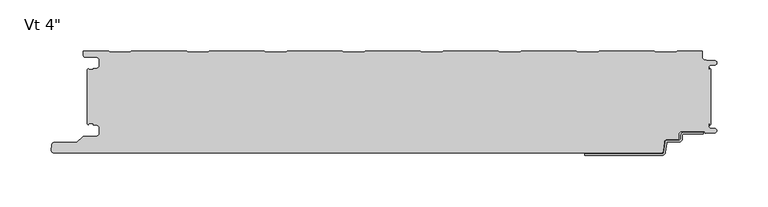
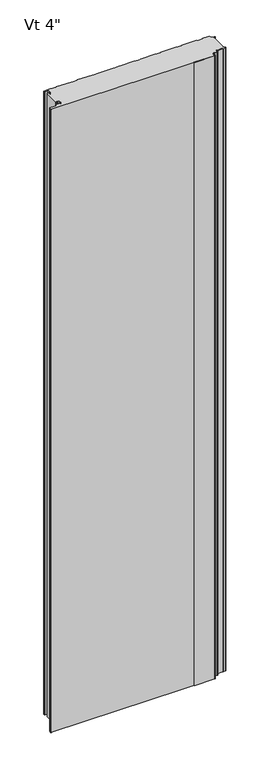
"""IFC4 building model written with IfcOpenShell, lengths in millimetres: plate geometry."""

from ifc_helpers import new_model, si_unit, frame, origin, place, context, project, spatial, polyline, circle_curve, source, transform, mapped, element, save
from ifc_brep_helpers import plane_surface, cylinder_surface, revolved_surface, advanced_brep


def plate_125cbf9a(model_context):
    return source(origin(), model_context, "Body", "AdvancedBrep", [
        advanced_brep(
        [(278.4543181, -80.5008679, 0.0), (297.1995181, -80.5008679, 0.0), (297.1995181, -82.0248679, 0.0), (278.4543181, -82.0248679, 0.0), (276.9303181, -83.5488679, 0.0), (276.9303181, -86.6476679, 0.0), (273.4759181, -90.1020679, 0.0), (262.2633607, -90.1020679, 0.0), (261.5042604, -90.7976552, 0.0), (260.3094328, -100.3416507, 0.0), (257.2730313, -103.124, 0.0), (181.7057181, -103.1360323, 0.0), (181.7057181, -101.6, 0.0), (257.2730313, -101.6, 0.0), (258.7912321, -100.2088254, 0.0), (259.9860597, -90.6648299, 0.0), (262.2633607, -88.5780679, 0.0), (273.4759181, -88.5780679, 0.0), (275.4063181, -86.6476679, 0.0), (275.4063181, -83.5488679, 0.0), (278.4543181, -80.5008679, 2400.0), (275.4063181, -83.5488679, 2400.0), (275.4063181, -86.6476679, 2400.0), (273.4759181, -88.5780679, 2400.0), (262.2633607, -88.5780679, 2400.0), (259.9860597, -90.6648299, 2400.0), (258.7912321, -100.2088254, 2400.0), (257.2730313, -101.6, 2400.0), (181.7057181, -101.6, 2400.0), (181.7057181, -103.1360323, 2400.0), (257.2730313, -103.1360323, 2400.0), (260.3094328, -100.3416507, 2400.0), (261.5042604, -90.7976552, 2400.0), (262.2633607, -90.1020679, 2400.0), (273.4759181, -90.1020679, 2400.0), (276.9303181, -86.6476679, 2400.0), (276.9303181, -83.5488679, 2400.0), (278.4543181, -82.0248679, 2400.0), (297.1995181, -82.0248679, 2400.0), (297.1995181, -80.5008679, 2400.0)],
        [
            (0, 1),
            (1, 2),
            (2, 3),
            (3, 4, circle_curve(frame((278.4543181, -83.5488679, 0.0), z_axis=(0.0, 0.0, 1.0), x_axis=(0.0, 1.0, 0.0)), 1.524)),
            (4, 5),
            (5, 6, circle_curve(frame((273.4759181, -86.6476679, 0.0), z_axis=(0.0, 0.0, -1.0), x_axis=(0.0, 1.0, 0.0)), 3.4544)),
            (6, 7),
            (7, 8, circle_curve(frame((262.2633607, -90.8640679, 0.0), z_axis=(0.0, 0.0, 1.0), x_axis=(0.0, 1.0, 0.0)), 0.762)),
            (8, 9),
            (9, 10, circle_curve(frame((257.2730313, -100.076, 0.0), z_axis=(0.0, 0.0, -1.0), x_axis=(0.0, 1.0, 0.0)), 3.048)),
            (10, 11),
            (11, 12),
            (12, 13),
            (13, 14, circle_curve(frame((257.2730313, -100.076, 0.0), z_axis=(0.0, 0.0, 1.0), x_axis=(0.0, 1.0, 0.0)), 1.524)),
            (14, 15),
            (15, 16, circle_curve(frame((262.2633607, -90.8640679, 0.0), z_axis=(0.0, 0.0, -1.0), x_axis=(0.0, 1.0, 0.0)), 2.286)),
            (16, 17),
            (17, 18, circle_curve(frame((273.4759181, -86.6476679, 0.0), z_axis=(0.0, 0.0, 1.0), x_axis=(0.0, 1.0, 0.0)), 1.9304)),
            (18, 19),
            (19, 0, circle_curve(frame((278.4543181, -83.5488679, 0.0), z_axis=(0.0, 0.0, -1.0), x_axis=(0.0, 1.0, 0.0)), 3.048)),
            (20, 21, circle_curve(frame((278.4543181, -83.5488679, 2400.0), z_axis=(0.0, 0.0, 1.0), x_axis=(0.0, 1.0, 0.0)), 3.048)),
            (21, 22),
            (22, 23, circle_curve(frame((273.4759181, -86.6476679, 2400.0), z_axis=(0.0, 0.0, -1.0), x_axis=(0.0, 1.0, 0.0)), 1.9304)),
            (23, 24),
            (24, 25, circle_curve(frame((262.2633607, -90.8640679, 2400.0), z_axis=(0.0, 0.0, 1.0), x_axis=(0.0, 1.0, 0.0)), 2.286)),
            (25, 26),
            (26, 27, circle_curve(frame((257.2730313, -100.076, 2400.0), z_axis=(0.0, 0.0, -1.0), x_axis=(0.0, 1.0, 0.0)), 1.524)),
            (27, 28),
            (28, 29),
            (29, 30),
            (30, 31, circle_curve(frame((257.2730313, -100.076, 2400.0), z_axis=(0.0, 0.0, 1.0), x_axis=(0.0, 1.0, 0.0)), 3.048)),
            (31, 32),
            (32, 33, circle_curve(frame((262.2633607, -90.8640679, 2400.0), z_axis=(0.0, 0.0, -1.0), x_axis=(0.0, 1.0, 0.0)), 0.762)),
            (33, 34),
            (34, 35, circle_curve(frame((273.4759181, -86.6476679, 2400.0), z_axis=(0.0, 0.0, 1.0), x_axis=(0.0, 1.0, 0.0)), 3.4544)),
            (35, 36),
            (36, 37, circle_curve(frame((278.4543181, -83.5488679, 2400.0), z_axis=(0.0, 0.0, -1.0), x_axis=(0.0, 1.0, 0.0)), 1.524)),
            (37, 38),
            (38, 39),
            (39, 20),
            (2, 38),
            (37, 3),
            (15, 25),
            (24, 16),
            (7, 33),
            (32, 8),
            (5, 35),
            (34, 6),
            (1, 39),
            (36, 4),
            (9, 31),
            (30, 10),
            (13, 27),
            (26, 14),
            (0, 20),
            (12, 28),
            (29, 11),
            (23, 17),
            (18, 22),
            (21, 19),
        ],
        [
            plane_surface(frame((297.1995181, -101.6, 0.0), z_axis=(0.0, 0.0, -1.0), x_axis=(-1.0, 0.0, 0.0))),
            plane_surface(frame((297.1995181, -101.6, 2400.0), z_axis=(0.0, 0.0, 1.0), x_axis=(-1.0, 0.0, 0.0))),
            plane_surface(frame((278.4543181, -82.0248679, 0.0), z_axis=(0.0, -1.0, 0.0), x_axis=(0.0, 0.0, 1.0))),
            cylinder_surface(frame((262.2633607, -90.8640679, 0.0), z_axis=(0.0, 0.0, -1.0), x_axis=(0.0, 1.0, 0.0)), 2.286),
            revolved_surface(polyline([(262.2633607, -90.1020679, 2400.0), (262.2633607, -90.1020679, 0.0)]), (262.2633607, -90.8640679, 0.0), (0.0, 0.0, 1.0)),
            cylinder_surface(frame((273.4759181, -86.6476679, 0.0), z_axis=(0.0, 0.0, -1.0), x_axis=(0.0, 1.0, 0.0)), 3.4544),
            plane_surface(frame((297.1995181, -82.0248679, 0.0), z_axis=(1.0, 0.0, 0.0), x_axis=(0.0, 0.0, 1.0))),
            revolved_surface(polyline([(278.4543181, -82.0248679, 2400.0), (278.4543181, -82.0248679, 0.0)]), (278.4543181, -83.5488679, 0.0), (0.0, 0.0, 1.0)),
            cylinder_surface(frame((257.2730313, -100.076, 0.0), z_axis=(0.0, 0.0, -1.0), x_axis=(0.0, 1.0, 0.0)), 3.048),
            revolved_surface(polyline([(257.2730313, -98.55199999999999, 2400.0), (257.2730313, -98.55199999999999, 0.0)]), (257.2730313, -100.076, 0.0), (0.0, 0.0, 1.0)),
            plane_surface(frame((297.1995181, -80.5008679, 0.0), z_axis=(0.0, 1.0, 0.0), x_axis=(0.0, 0.0, 1.0))),
            plane_surface(frame((259.9860597, -90.6648299, 0.0), z_axis=(-0.992254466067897, 0.12422187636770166, 0.0), x_axis=(0.0, 0.0, 1.0))),
            plane_surface(frame((257.2730313, -101.6, 0.0), z_axis=(0.0, 1.0, 0.0), x_axis=(0.0, 0.0, 1.0))),
            plane_surface(frame((260.3094328, -100.3416507, 0.0), z_axis=(0.9922544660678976, -0.12422187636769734, 0.0), x_axis=(0.0, 0.0, 1.0))),
            plane_surface(frame((276.9303181, -86.6476679, 0.0), z_axis=(1.0, 0.0, 0.0), x_axis=(0.0, 0.0, 1.0))),
            plane_surface(frame((181.7057181, -103.1360323, 0.0), z_axis=(0.0, -1.0, 0.0), x_axis=(0.0, 0.0, 1.0))),
            plane_surface(frame((181.7057181, -101.6, 0.0), z_axis=(-1.0, 0.0, 0.0), x_axis=(0.0, 0.0, 1.0))),
            plane_surface(frame((273.4759181, -88.5780679, 0.0), z_axis=(0.0, 1.0, 0.0), x_axis=(0.0, 0.0, 1.0))),
            plane_surface(frame((275.4063181, -83.5488679, 0.0), z_axis=(-1.0, 0.0, 0.0), x_axis=(0.0, 0.0, 1.0))),
            plane_surface(frame((262.2633607, -90.1020679, 0.0), z_axis=(0.0, -1.0, 0.0), x_axis=(0.0, 0.0, 1.0))),
            revolved_surface(polyline([(273.4759181, -84.7172679, 2400.0), (273.4759181, -84.7172679, 0.0)]), (273.4759181, -86.6476679, 0.0), (0.0, 0.0, 1.0)),
            cylinder_surface(frame((278.4543181, -83.5488679, 0.0), z_axis=(0.0, 0.0, -1.0), x_axis=(0.0, 1.0, 0.0)), 3.048),
        ],
        [
            (0, [[1, 2, 3, 4, 5, 6, 7, 8, 9, 10, 11, 12, 13, 14, 15, 16, 17, 18, 19, 20]]),
            (1, [[21, 22, 23, 24, 25, 26, 27, 28, 29, 30, 31, 32, 33, 34, 35, 36, 37, 38, 39, 40]]),
            (2, [[41, -38, 42, -3]]),
            (3, [[43, -25, 44, -16]]),
            (4, [[45, -33, 46, -8]]),
            (5, [[47, -35, 48, -6]]),
            (6, [[49, -39, -41, -2]]),
            (7, [[-42, -37, 50, -4]]),
            (8, [[51, -31, 52, -10]]),
            (9, [[53, -27, 54, -14]]),
            (10, [[55, -40, -49, -1]]),
            (11, [[-54, -26, -43, -15]]),
            (12, [[56, -28, -53, -13]]),
            (13, [[-46, -32, -51, -9]]),
            (14, [[-50, -36, -47, -5]]),
            (15, [[-52, -30, 57, -11]]),
            (16, [[-57, -29, -56, -12]]),
            (17, [[-44, -24, 58, -17]]),
            (18, [[59, -22, 60, -19]]),
            (19, [[-48, -34, -45, -7]]),
            (20, [[-58, -23, -59, -18]]),
            (21, [[-60, -21, -55, -20]]),
        ],
    ),
        advanced_brep(
        [(-303.7683001, -73.270875, 2400.0), (-302.5671761, -72.1014003, 2400.0), (-298.8087827, -72.1014003, 2400.0), (-298.8087827, -73.4998791, 2400.0), (-296.1096717, -73.4998791, 2400.0), (-292.7596764, -76.8498744, 2400.0), (-292.7596764, -81.2498656, 2400.0), (-296.1096717, -84.5998609, 2400.0), (-307.9205608, -84.5998609, 2400.0), (-309.1226385, -85.0977778, 2400.0), (-314.6247096, -90.5998489, 2400.0), (-336.7198392, -90.5998489, 2400.0), (-339.3765709, -92.8184509, 2400.0), (-339.8125699, -97.8002718, 2400.0), (-337.2521176, -100.5945967, 2400.0), (256.315622, -100.6, 2400.0), (258.2669057, -98.8149259, 2400.0), (259.021161, -90.3539491, 2400.0), (262.1653654, -87.5906462, 2400.0), (272.2583308, -87.5906462, 2400.0), (273.2097394, -86.6392375, 2400.0), (273.2097394, -83.4955822, 2400.0), (277.2091924, -79.4961292, 2400.0), (298.3895515, -79.4961292, 2400.0), (299.5334028, -81.476977, 2400.0), (308.506811, -81.1217167, 2400.0), (308.5037148, -76.9211391, 2400.0), (304.4977997, -76.6767242, 2400.0), (302.7686884, -74.8819116, 2400.0), (302.7686884, -72.097365, 2400.0), (303.7686884, -72.097365, 2400.0), (303.7686884, -73.684865, 2400.0), (304.8, -72.6535534, 2400.0), (304.8, -18.6184525, 2400.0), (303.7686884, -17.5871409, 2400.0), (303.7686884, -19.0015288, 2400.0), (302.7686884, -19.0015288, 2400.0), (302.7686884, -16.6743462, 2400.0), (304.4513685, -14.9256429, 2400.0), (308.5921924, -14.7059822, 2400.0), (308.5931719, -10.4046442, 2400.0), (300.1016499, -9.9974365, 2400.0), (296.2787013, -6.0026007, 2400.0), (296.2787013, -1.0, 2400.0), (271.7794011, -1.0, 2400.0), (270.3937682, -2.2002307, 2400.0), (251.0186019, -2.2002307, 2400.0), (249.6329689, -1.0, 2400.0), (195.5795535, -1.0, 2400.0), (194.1939206, -2.2002307, 2400.0), (174.8187543, -2.2002307, 2400.0), (173.4331213, -1.0, 2400.0), (119.3797059, -1.0, 2400.0), (117.994073, -2.2002307, 2400.0), (98.6189067, -2.2002307, 2400.0), (97.2332737, -1.0, 2400.0), (43.1798583, -1.0, 2400.0), (41.7942254, -2.2002307, 2400.0), (22.4190591, -2.2002307, 2400.0), (21.0334261, -1.0, 2400.0), (-33.0199893, -1.0, 2400.0), (-34.4056222, -2.2002307, 2400.0), (-53.7807885, -2.2002307, 2400.0), (-55.1664215, -1.0, 2400.0), (-109.2198369, -1.0, 2400.0), (-110.6054698, -2.2002307, 2400.0), (-129.9806361, -2.2002307, 2400.0), (-131.3662691, -1.0, 2400.0), (-185.4196845, -1.0, 2400.0), (-186.8053174, -2.2002307, 2400.0), (-206.1804837, -2.2002307, 2400.0), (-207.5661167, -1.0, 2400.0), (-261.6195321, -1.0, 2400.0), (-263.005165, -2.2002307, 2400.0), (-282.3803313, -2.2002307, 2400.0), (-283.765974, -0.9999916, 2400.0), (-308.2662506, -0.9999916, 2400.0), (-308.2662506, -5.2315389, 2400.0), (-306.4962564, -7.0015331, 2400.0), (-296.0762778, -7.0015331, 2400.0), (-292.776282, -10.301529, 2400.0), (-292.776282, -14.7015202, 2400.0), (-296.0762777, -18.0015159, 2400.0), (-298.7684875, -18.0015159, 2400.0), (-298.7684875, -19.0015105, 2400.0), (-302.7686911, -19.0015105, 2400.0), (-303.7686883, -18.0015192, 2400.0), (-304.8, -19.0328308, 2400.0), (-304.8, -72.2391751, 2400.0), (-303.7683001, -73.270875, 0.0), (-304.8, -72.2391751, 0.0), (-304.8, -19.0328308, 0.0), (-303.7686883, -18.0015192, 0.0), (-302.7686911, -19.0015105, 0.0), (-298.7684875, -19.0015105, 0.0), (-298.7684875, -18.0015159, 0.0), (-296.0762777, -18.0015159, 0.0), (-292.776282, -14.7015202, 0.0), (-292.776282, -10.301529, 0.0), (-296.0762778, -7.0015331, 0.0), (-306.4962564, -7.0015331, 0.0), (-308.2662506, -5.2315389, 0.0), (-308.2662506, -0.9999916, 0.0), (-283.765974, -0.9999916, 0.0), (-282.3803313, -2.2002307, 0.0), (-263.005165, -2.2002307, 0.0), (-261.6195321, -1.0, 0.0), (-207.5661167, -1.0, 0.0), (-206.1804837, -2.2002307, 0.0), (-186.8053174, -2.2002307, 0.0), (-185.4196845, -1.0, 0.0), (-131.3662691, -1.0, 0.0), (-129.9806361, -2.2002307, 0.0), (-110.6054698, -2.2002307, 0.0), (-109.2198369, -1.0, 0.0), (-55.1664215, -1.0, 0.0), (-53.7807885, -2.2002307, 0.0), (-34.4056222, -2.2002307, 0.0), (-33.0199893, -1.0, 0.0), (21.0334261, -1.0, 0.0), (22.4190591, -2.2002307, 0.0), (41.7942254, -2.2002307, 0.0), (43.1798583, -1.0, 0.0), (97.2332737, -1.0, 0.0), (98.6189067, -2.2002307, 0.0), (117.994073, -2.2002307, 0.0), (119.3797059, -1.0, 0.0), (173.4331213, -1.0, 0.0), (174.8187543, -2.2002307, 0.0), (194.1939206, -2.2002307, 0.0), (195.5795535, -1.0, 0.0), (249.6329689, -1.0, 0.0), (251.0186019, -2.2002307, 0.0), (270.3937682, -2.2002307, 0.0), (271.7794011, -1.0, 0.0), (296.2787013, -1.0, 0.0), (296.2787013, -6.0026007, 0.0), (300.1016499, -9.9974365, 0.0), (308.5931719, -10.4046442, 0.0), (308.5921924, -14.7059822, 0.0), (304.4513685, -14.9256429, 0.0), (302.7686884, -16.6743462, 0.0), (302.7686884, -19.0015288, 0.0), (303.7686884, -19.0015288, 0.0), (303.7686884, -17.5871409, 0.0), (304.8, -18.6184525, 0.0), (304.8, -72.6535534, 0.0), (303.7686884, -73.684865, 0.0), (303.7686884, -72.097365, 0.0), (302.7686884, -72.097365, 0.0), (302.7686884, -74.8819116, 0.0), (304.4977997, -76.6767242, 0.0), (308.5037148, -76.9211391, 0.0), (308.506811, -81.1217167, 0.0), (299.5334028, -81.476977, 0.0), (298.3895515, -79.4961292, 0.0), (277.2091924, -79.4961292, 0.0), (273.2097394, -83.4955822, 0.0), (273.2097394, -86.6392375, 0.0), (272.2583308, -87.5906462, 0.0), (262.1653654, -87.5906462, 0.0), (259.021161, -90.3539491, 0.0), (258.2669057, -98.8149259, 0.0), (256.315622, -100.6, 0.0), (-337.2521176, -100.6, 0.0), (-339.8125699, -97.8002718, 0.0), (-339.3765709, -92.8184509, 0.0), (-336.7198392, -90.5998489, 0.0), (-314.6247096, -90.5998489, 0.0), (-309.1226385, -85.0977778, 0.0), (-307.9205608, -84.5998609, 0.0), (-296.1096717, -84.5998609, 0.0), (-292.7596764, -81.2498656, 0.0), (-292.7596764, -76.8498744, 0.0), (-296.1096717, -73.4998791, 0.0), (-298.8087827, -73.4998791, 0.0), (-298.8087827, -72.1014003, 0.0), (-302.5671761, -72.1014003, 0.0)],
        [
            (0, 1, circle_curve(frame((-302.5686908, -73.3013969, 2400.0), z_axis=(0.0, 0.0, -1.0), x_axis=(-1.0, 0.0, 0.0)), 1.1999976)),
            (1, 2),
            (2, 3),
            (3, 4),
            (4, 5, circle_curve(frame((-296.1096717, -76.8498744, 2400.0), z_axis=(0.0, 0.0, -1.0), x_axis=(-1.0, 0.0, 0.0)), 3.3499953)),
            (5, 6),
            (6, 7, circle_curve(frame((-296.1096717, -81.2498656, 2400.0), z_axis=(0.0, 0.0, -1.0), x_axis=(-1.0, 0.0, 0.0)), 3.3499953)),
            (7, 8),
            (8, 9, circle_curve(frame((-307.9205608, -86.2998555, 2400.0), z_axis=(0.0, 0.0, 1.0), x_axis=(-1.0, 0.0, 0.0)), 1.6999946)),
            (9, 10),
            (10, 11),
            (11, 12, circle_curve(frame((-336.7198392, -93.2998415, 2400.0), z_axis=(0.0, 0.0, 1.0), x_axis=(-1.0, 0.0, 0.0)), 2.6999926)),
            (12, 13),
            (13, 14, circle_curve(frame((-337.2521176, -98.0243575, 2400.0), z_axis=(0.0, 0.0, 1.0), x_axis=(-1.0, 0.0, 0.0)), 2.5702393)),
            (14, 15),
            (15, 16, circle_curve(frame((256.315622, -98.6409784, 2400.0), z_axis=(0.0, 0.0, 1.0), x_axis=(-1.0, 0.0, 0.0)), 1.9590216)),
            (16, 17),
            (17, 18, circle_curve(frame((262.0396267, -90.6180321, 2400.0), z_axis=(0.0, 0.0, -1.0), x_axis=(-1.0, 0.0, 0.0)), 3.0299959)),
            (18, 19),
            (19, 20, circle_curve(frame((272.2583308, -86.6392375, 2400.0), z_axis=(0.0, 0.0, 1.0), x_axis=(-1.0, 0.0, 0.0)), 0.9514087)),
            (20, 21),
            (21, 22, circle_curve(frame((277.2091924, -83.4955822, 2400.0), z_axis=(0.0, 0.0, -1.0), x_axis=(-1.0, 0.0, 0.0)), 3.9994529)),
            (22, 23),
            (23, 24),
            (24, 25),
            (25, 26, circle_curve(frame((308.4236622, -79.021488, 2400.0), z_axis=(0.0, 0.0, 1.0), x_axis=(-1.0, 0.0, 0.0)), 2.1018739)),
            (26, 27),
            (27, 28, circle_curve(frame((304.6099653, -74.8383506, 2400.0), z_axis=(0.0, 0.0, -1.0), x_axis=(-1.0, 0.0, 0.0)), 1.8417922)),
            (28, 29),
            (29, 30),
            (30, 31),
            (31, 32),
            (32, 33),
            (33, 34),
            (34, 35),
            (35, 36),
            (36, 37),
            (37, 38, circle_curve(frame((304.5186869, -16.6743462, 2400.0), z_axis=(0.0, 0.0, -1.0), x_axis=(1.0, 0.0, 0.0)), 1.7499985)),
            (38, 39),
            (39, 40, circle_curve(frame((308.4781032, -12.5552871, 2400.0), z_axis=(0.0, 0.0, 1.0), x_axis=(1.0, 0.0, 0.0)), 2.153719)),
            (40, 41),
            (41, 42, circle_curve(frame((300.2939817, -5.9867338, 2400.0), z_axis=(0.0, 0.0, -1.0), x_axis=(1.0, 0.0, 0.0)), 4.0153117)),
            (42, 43),
            (43, 44),
            (44, 45),
            (45, 46),
            (46, 47),
            (47, 48),
            (48, 49),
            (49, 50),
            (50, 51),
            (51, 52),
            (52, 53),
            (53, 54),
            (54, 55),
            (55, 56),
            (56, 57),
            (57, 58),
            (58, 59),
            (59, 60),
            (60, 61),
            (61, 62),
            (62, 63),
            (63, 64),
            (64, 65),
            (65, 66),
            (66, 67),
            (67, 68),
            (68, 69),
            (69, 70),
            (70, 71),
            (71, 72),
            (72, 73),
            (73, 74),
            (74, 75),
            (75, 76),
            (76, 77),
            (77, 78, circle_curve(frame((-306.4962564, -5.2315389, 2400.0), z_axis=(0.0, 0.0, 1.0), x_axis=(1.0, 0.0, 0.0)), 1.7699942)),
            (78, 79),
            (79, 80, circle_curve(frame((-296.0762778, -10.301529, 2400.0), z_axis=(0.0, 0.0, -1.0), x_axis=(1.0, 0.0, 0.0)), 3.2999959)),
            (80, 81),
            (81, 82, circle_curve(frame((-296.0762777, -14.7015202, 2400.0), z_axis=(0.0, 0.0, -1.0), x_axis=(1.0, 0.0, 0.0)), 3.2999957)),
            (82, 83),
            (83, 84),
            (84, 85),
            (85, 86, circle_curve(frame((-302.7686911, -18.0015133, 2400.0), z_axis=(0.0, 0.0, -1.0), x_axis=(1.0, 0.0, 0.0)), 0.9999972)),
            (86, 87),
            (87, 88),
            (88, 0),
            (89, 90),
            (90, 91),
            (91, 92),
            (92, 93, circle_curve(frame((-302.7686911, -18.0015133, 0.0), z_axis=(0.0, 0.0, 1.0), x_axis=(1.0, 0.0, 0.0)), 0.9999972)),
            (93, 94),
            (94, 95),
            (95, 96),
            (96, 97, circle_curve(frame((-296.0762777, -14.7015202, 0.0), z_axis=(0.0, 0.0, 1.0), x_axis=(1.0, 0.0, 0.0)), 3.2999957)),
            (97, 98),
            (98, 99, circle_curve(frame((-296.0762778, -10.301529, 0.0), z_axis=(0.0, 0.0, 1.0), x_axis=(1.0, 0.0, 0.0)), 3.2999959)),
            (99, 100),
            (100, 101, circle_curve(frame((-306.4962564, -5.2315389, 0.0), z_axis=(0.0, 0.0, -1.0), x_axis=(1.0, 0.0, 0.0)), 1.7699942)),
            (101, 102),
            (102, 103),
            (103, 104),
            (104, 105),
            (105, 106),
            (106, 107),
            (107, 108),
            (108, 109),
            (109, 110),
            (110, 111),
            (111, 112),
            (112, 113),
            (113, 114),
            (114, 115),
            (115, 116),
            (116, 117),
            (117, 118),
            (118, 119),
            (119, 120),
            (120, 121),
            (121, 122),
            (122, 123),
            (123, 124),
            (124, 125),
            (125, 126),
            (126, 127),
            (127, 128),
            (128, 129),
            (129, 130),
            (130, 131),
            (131, 132),
            (132, 133),
            (133, 134),
            (134, 135),
            (135, 136),
            (136, 137, circle_curve(frame((300.2939817, -5.9867338, 0.0), z_axis=(0.0, 0.0, 1.0), x_axis=(1.0, 0.0, 0.0)), 4.0153117)),
            (137, 138),
            (138, 139, circle_curve(frame((308.4781032, -12.5552871, 0.0), z_axis=(0.0, 0.0, -1.0), x_axis=(1.0, 0.0, 0.0)), 2.153719)),
            (139, 140),
            (140, 141, circle_curve(frame((304.5186869, -16.6743462, 0.0), z_axis=(0.0, 0.0, 1.0), x_axis=(1.0, 0.0, 0.0)), 1.7499985)),
            (141, 142),
            (142, 143),
            (143, 144),
            (144, 145),
            (145, 146),
            (146, 147),
            (147, 148),
            (148, 149),
            (149, 150),
            (150, 151, circle_curve(frame((304.6099653, -74.8383506, 0.0), z_axis=(0.0, 0.0, 1.0), x_axis=(-1.0, 0.0, 0.0)), 1.8417922)),
            (151, 152),
            (152, 153, circle_curve(frame((308.4236622, -79.021488, 0.0), z_axis=(0.0, 0.0, -1.0), x_axis=(-1.0, 0.0, 0.0)), 2.1018739)),
            (153, 154),
            (154, 155),
            (155, 156),
            (156, 157, circle_curve(frame((277.2091924, -83.4955822, 0.0), z_axis=(0.0, 0.0, 1.0), x_axis=(-1.0, 0.0, 0.0)), 3.9994529)),
            (157, 158),
            (158, 159, circle_curve(frame((272.2583308, -86.6392375, 0.0), z_axis=(0.0, 0.0, -1.0), x_axis=(-1.0, 0.0, 0.0)), 0.9514087)),
            (159, 160),
            (160, 161, circle_curve(frame((262.0396267, -90.6180321, 0.0), z_axis=(0.0, 0.0, 1.0), x_axis=(-1.0, 0.0, 0.0)), 3.0299959)),
            (161, 162),
            (162, 163, circle_curve(frame((256.315622, -98.6409784, 0.0), z_axis=(0.0, 0.0, -1.0), x_axis=(-1.0, 0.0, 0.0)), 1.9590216)),
            (163, 164),
            (164, 165, circle_curve(frame((-337.2521176, -98.0243575, 0.0), z_axis=(0.0, 0.0, -1.0), x_axis=(-1.0, 0.0, 0.0)), 2.5702393)),
            (165, 166),
            (166, 167, circle_curve(frame((-336.7198392, -93.2998415, 0.0), z_axis=(0.0, 0.0, -1.0), x_axis=(-1.0, 0.0, 0.0)), 2.6999926)),
            (167, 168),
            (168, 169),
            (169, 170, circle_curve(frame((-307.9205608, -86.2998555, 0.0), z_axis=(0.0, 0.0, -1.0), x_axis=(-1.0, 0.0, 0.0)), 1.6999946)),
            (170, 171),
            (171, 172, circle_curve(frame((-296.1096717, -81.2498656, 0.0), z_axis=(0.0, 0.0, 1.0), x_axis=(-1.0, 0.0, 0.0)), 3.3499953)),
            (172, 173),
            (173, 174, circle_curve(frame((-296.1096717, -76.8498744, 0.0), z_axis=(0.0, 0.0, 1.0), x_axis=(-1.0, 0.0, 0.0)), 3.3499953)),
            (174, 175),
            (175, 176),
            (176, 177),
            (177, 89, circle_curve(frame((-302.5686908, -73.3013969, 0.0), z_axis=(0.0, 0.0, 1.0), x_axis=(-1.0, 0.0, 0.0)), 1.1999976)),
            (88, 90),
            (89, 0),
            (87, 91),
            (32, 146),
            (145, 33),
            (31, 147),
            (30, 148),
            (29, 149),
            (28, 150),
            (27, 151),
            (26, 152),
            (25, 153),
            (24, 154),
            (23, 155),
            (22, 156),
            (21, 157),
            (20, 158),
            (19, 159),
            (18, 160),
            (17, 161),
            (16, 162),
            (15, 163),
            (14, 164),
            (13, 165),
            (12, 166),
            (11, 167),
            (10, 168),
            (9, 169),
            (8, 170),
            (7, 171),
            (6, 172),
            (5, 173),
            (4, 174),
            (3, 175),
            (2, 176),
            (1, 177),
            (86, 92),
            (85, 93),
            (84, 94),
            (83, 95),
            (82, 96),
            (81, 97),
            (80, 98),
            (79, 99),
            (78, 100),
            (77, 101),
            (76, 102),
            (41, 137),
            (136, 42),
            (40, 138),
            (39, 139),
            (38, 140),
            (37, 141),
            (36, 142),
            (35, 143),
            (34, 144),
            (74, 104),
            (103, 75),
            (73, 105),
            (72, 106),
            (71, 107),
            (70, 108),
            (69, 109),
            (68, 110),
            (67, 111),
            (66, 112),
            (65, 113),
            (64, 114),
            (63, 115),
            (62, 116),
            (61, 117),
            (60, 118),
            (59, 119),
            (58, 120),
            (57, 121),
            (56, 122),
            (55, 123),
            (54, 124),
            (53, 125),
            (52, 126),
            (51, 127),
            (50, 128),
            (49, 129),
            (48, 130),
            (47, 131),
            (46, 132),
            (45, 133),
            (44, 134),
            (43, 135),
        ],
        [
            plane_surface(frame((0.0, -100.6, 2400.0), z_axis=(0.0, 0.0, 1.0), x_axis=(0.0, -1.0, 0.0))),
            plane_surface(frame((0.0, -100.6, 0.0), z_axis=(0.0, 0.0, -1.0), x_axis=(0.0, -1.0, 0.0))),
            plane_surface(frame((-303.7683001, -73.270875, 2400.0), z_axis=(-0.7071067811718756, -0.7071067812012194, 0.0), x_axis=(0.0, 0.0, -1.0))),
            plane_surface(frame((-304.8, -72.2391751, 2400.0), z_axis=(-1.0, 0.0, 0.0), x_axis=(0.0, 0.0, -1.0))),
            plane_surface(frame((304.8, -71.2391751, 2400.0), z_axis=(1.0, 0.0, 0.0), x_axis=(0.0, 0.0, -1.0))),
            plane_surface(frame((304.8, -72.6535534, 2400.0), z_axis=(0.7071067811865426, -0.7071067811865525, 0.0), x_axis=(0.0, 0.0, -1.0))),
            plane_surface(frame((303.7686884, -73.684865, 2400.0), z_axis=(-1.0, 0.0, 0.0), x_axis=(0.0, 0.0, -1.0))),
            plane_surface(frame((303.7686884, -72.097365, 2400.0), z_axis=(0.0, -1.0, 0.0), x_axis=(0.0, 0.0, -1.0))),
            plane_surface(frame((302.7686884, -72.097365, 2400.0), z_axis=(1.0, 0.0, 0.0), x_axis=(0.0, 0.0, -1.0))),
            revolved_surface(polyline([(302.7681731, -74.8383506, 0.0), (302.7681731, -74.8383506, 2400.0)]), (304.6099653, -74.8383506, 2400.0), (0.0, 0.0, -1.0)),
            plane_surface(frame((304.4977997, -76.6767242, 2400.0), z_axis=(0.06090025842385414, 0.9981438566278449, 0.0), x_axis=(0.0, 0.0, -1.0))),
            cylinder_surface(frame((308.4236622, -79.021488, 2400.0), z_axis=(0.0, 0.0, 1.0), x_axis=(-1.0, 0.0, 0.0)), 2.1018739),
            plane_surface(frame((308.506811, -81.1217167, 2400.0), z_axis=(0.03955935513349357, -0.9992172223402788, 0.0), x_axis=(0.0, 0.0, -1.0))),
            plane_surface(frame((299.5334028, -81.476977, 2400.0), z_axis=(-0.8659859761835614, -0.5000682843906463, 0.0), x_axis=(0.0, 0.0, -1.0))),
            plane_surface(frame((298.3895515, -79.4961292, 2400.0), z_axis=(0.0, -1.0, 0.0), x_axis=(0.0, 0.0, -1.0))),
            revolved_surface(polyline([(273.2097395, -83.4955822, 0.0), (273.2097395, -83.4955822, 2400.0)]), (277.2091924, -83.4955822, 2400.0), (0.0, 0.0, -1.0)),
            plane_surface(frame((273.2097394, -83.4955822, 2400.0), z_axis=(1.0, 0.0, 0.0), x_axis=(0.0, 0.0, -1.0))),
            cylinder_surface(frame((272.2583308, -86.6392375, 2400.0), z_axis=(0.0, 0.0, 1.0), x_axis=(-1.0, 0.0, 0.0)), 0.9514087),
            plane_surface(frame((272.2583308, -87.5906462, 2400.0), z_axis=(0.0, -1.0, 0.0), x_axis=(0.0, 0.0, -1.0))),
            revolved_surface(polyline([(259.00963079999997, -90.6180321, 0.0), (259.00963079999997, -90.6180321, 2400.0)]), (262.0396267, -90.6180321, 2400.0), (0.0, 0.0, -1.0)),
            plane_surface(frame((259.021161, -90.3539491, 2400.0), z_axis=(0.9960500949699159, -0.08879306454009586, 0.0), x_axis=(0.0, 0.0, -1.0))),
            cylinder_surface(frame((256.315622, -98.6409784, 2400.0), z_axis=(0.0, 0.0, 1.0), x_axis=(-1.0, 0.0, 0.0)), 1.9590216),
            plane_surface(frame((256.315622, -100.6, 2400.0), z_axis=(0.0, -1.0, 0.0), x_axis=(0.0, 0.0, -1.0))),
            cylinder_surface(frame((-337.2521176, -98.0243575, 2400.0), z_axis=(0.0, 0.0, 1.0), x_axis=(-1.0, 0.0, 0.0)), 2.5702393),
            plane_surface(frame((-339.8125699, -97.8002718, 2400.0), z_axis=(-0.9961921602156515, 0.08718474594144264, 0.0), x_axis=(0.0, 0.0, -1.0))),
            cylinder_surface(frame((-336.7198392, -93.2998415, 2400.0), z_axis=(0.0, 0.0, 1.0), x_axis=(-1.0, 0.0, 0.0)), 2.6999926),
            plane_surface(frame((-336.7198392, -90.5998489, 2400.0), z_axis=(0.0, 1.0, 0.0), x_axis=(0.0, 0.0, -1.0))),
            plane_surface(frame((-314.6247096, -90.5998489, 2400.0), z_axis=(-0.7071067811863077, 0.7071067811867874, 0.0), x_axis=(0.0, 0.0, -1.0))),
            cylinder_surface(frame((-307.9205608, -86.2998555, 2400.0), z_axis=(0.0, 0.0, 1.0), x_axis=(-1.0, 0.0, 0.0)), 1.6999946),
            plane_surface(frame((-307.9205608, -84.5998609, 2400.0), z_axis=(0.0, 1.0, 0.0), x_axis=(0.0, 0.0, -1.0))),
            revolved_surface(polyline([(-299.45966699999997, -81.2498656, 0.0), (-299.45966699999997, -81.2498656, 2400.0)]), (-296.1096717, -81.2498656, 2400.0), (0.0, 0.0, -1.0)),
            plane_surface(frame((-292.7596764, -81.2498656, 2400.0), z_axis=(-1.0, 0.0, 0.0), x_axis=(0.0, 0.0, -1.0))),
            revolved_surface(polyline([(-299.45966699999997, -76.8498744, 0.0), (-299.45966699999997, -76.8498744, 2400.0)]), (-296.1096717, -76.8498744, 2400.0), (0.0, 0.0, -1.0)),
            plane_surface(frame((-296.1096717, -73.4998791, 2400.0), z_axis=(0.0, -1.0, 0.0), x_axis=(0.0, 0.0, -1.0))),
            plane_surface(frame((-298.8087827, -73.4998791, 2400.0), z_axis=(-1.0, 0.0, 0.0), x_axis=(0.0, 0.0, -1.0))),
            plane_surface(frame((-298.8087827, -72.1014003, 2400.0), z_axis=(0.0, -1.0, 0.0), x_axis=(0.0, 0.0, -1.0))),
            revolved_surface(polyline([(-303.76868840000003, -73.3013969, 0.0), (-303.76868840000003, -73.3013969, 2400.0)]), (-302.5686908, -73.3013969, 2400.0), (0.0, 0.0, -1.0)),
            plane_surface(frame((-304.8, -19.0328308, 2400.0), z_axis=(-0.7071067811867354, 0.7071067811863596, 0.0), x_axis=(0.0, 0.0, -1.0))),
            revolved_surface(polyline([(-301.7686939, -18.0015133, 0.0), (-301.7686939, -18.0015133, 2400.0)]), (-302.7686911, -18.0015133, 2400.0), (0.0, 0.0, -1.0)),
            plane_surface(frame((-302.7686911, -19.0015105, 2400.0), z_axis=(0.0, 1.0, 0.0), x_axis=(0.0, 0.0, -1.0))),
            plane_surface(frame((-298.7684875, -19.0015105, 2400.0), z_axis=(-1.0, 0.0, 0.0), x_axis=(0.0, 0.0, -1.0))),
            plane_surface(frame((-298.7684875, -18.0015159, 2400.0), z_axis=(0.0, 1.0, 0.0), x_axis=(0.0, 0.0, -1.0))),
            revolved_surface(polyline([(-292.776282, -14.7015202, 0.0), (-292.776282, -14.7015202, 2400.0)]), (-296.0762777, -14.7015202, 2400.0), (0.0, 0.0, -1.0)),
            plane_surface(frame((-292.776282, -14.7015202, 2400.0), z_axis=(-1.0, 0.0, 0.0), x_axis=(0.0, 0.0, -1.0))),
            revolved_surface(polyline([(-292.7762819, -10.301529, 0.0), (-292.7762819, -10.301529, 2400.0)]), (-296.0762778, -10.301529, 2400.0), (0.0, 0.0, -1.0)),
            plane_surface(frame((-296.0762778, -7.0015331, 2400.0), z_axis=(0.0, -1.0, 0.0), x_axis=(0.0, 0.0, -1.0))),
            cylinder_surface(frame((-306.4962564, -5.2315389, 2400.0), z_axis=(0.0, 0.0, 1.0), x_axis=(1.0, 0.0, 0.0)), 1.7699942),
            plane_surface(frame((-308.2662506, -5.2315389, 2400.0), z_axis=(-1.0, 0.0, 0.0), x_axis=(0.0, 0.0, -1.0))),
            revolved_surface(polyline([(304.3092934, -5.9867338, 0.0), (304.3092934, -5.9867338, 2400.0)]), (300.2939817, -5.9867338, 2400.0), (0.0, 0.0, -1.0)),
            plane_surface(frame((300.1016499, -9.9974365, 2400.0), z_axis=(0.047899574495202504, 0.9988521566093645, 0.0), x_axis=(0.0, 0.0, -1.0))),
            cylinder_surface(frame((308.4781032, -12.5552871, 2400.0), z_axis=(0.0, 0.0, 1.0), x_axis=(1.0, 0.0, 0.0)), 2.153719),
            plane_surface(frame((308.5921924, -14.7059822, 2400.0), z_axis=(0.05297310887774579, -0.9985959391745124, 0.0), x_axis=(0.0, 0.0, -1.0))),
            revolved_surface(polyline([(306.2686854, -16.6743462, 0.0), (306.2686854, -16.6743462, 2400.0)]), (304.5186869, -16.6743462, 2400.0), (0.0, 0.0, -1.0)),
            plane_surface(frame((302.7686884, -16.6743462, 2400.0), z_axis=(1.0, 0.0, 0.0), x_axis=(0.0, 0.0, -1.0))),
            plane_surface(frame((302.7686884, -19.0015288, 2400.0), z_axis=(0.0, 1.0, 0.0), x_axis=(0.0, 0.0, -1.0))),
            plane_surface(frame((303.7686884, -19.0015288, 2400.0), z_axis=(-1.0, 0.0, 0.0), x_axis=(0.0, 0.0, -1.0))),
            plane_surface(frame((303.7686884, -17.5871409, 2400.0), z_axis=(0.7071067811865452, 0.7071067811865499, 0.0), x_axis=(0.0, 0.0, -1.0))),
            plane_surface(frame((-283.765974, -0.9999916, 2400.0), z_axis=(0.6547276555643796, 0.7558648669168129, 0.0), x_axis=(0.0, 0.0, -1.0))),
            plane_surface(frame((-308.2662506, -0.9999916, 2400.0), z_axis=(0.0, 1.0, 0.0), x_axis=(0.0, 0.0, -1.0))),
            plane_surface(frame((-282.3803313, -2.2002307, 2400.0), z_axis=(0.0, 1.0, 0.0), x_axis=(0.0, 0.0, -1.0))),
            plane_surface(frame((-263.005165, -2.2002307, 2400.0), z_axis=(-0.6547276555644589, 0.7558648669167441, 0.0), x_axis=(0.0, 0.0, -1.0))),
            plane_surface(frame((-261.6195321, -1.0, 2400.0), z_axis=(0.0, 1.0, 0.0), x_axis=(0.0, 0.0, -1.0))),
            plane_surface(frame((-207.5661167, -1.0, 2400.0), z_axis=(0.6547276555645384, 0.7558648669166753, 0.0), x_axis=(0.0, 0.0, -1.0))),
            plane_surface(frame((-206.1804837, -2.2002307, 2400.0), z_axis=(0.0, 1.0, 0.0), x_axis=(0.0, 0.0, -1.0))),
            plane_surface(frame((-186.8053174, -2.2002307, 2400.0), z_axis=(-0.6547276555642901, 0.7558648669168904, 0.0), x_axis=(0.0, 0.0, -1.0))),
            plane_surface(frame((-185.4196845, -1.0, 2400.0), z_axis=(0.0, 1.0, 0.0), x_axis=(0.0, 0.0, -1.0))),
            plane_surface(frame((-131.3662691, -1.0, 2400.0), z_axis=(0.6547276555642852, 0.7558648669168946, 0.0), x_axis=(0.0, 0.0, -1.0))),
            plane_surface(frame((-129.9806361, -2.2002307, 2400.0), z_axis=(0.0, 1.0, 0.0), x_axis=(0.0, 0.0, -1.0))),
            plane_surface(frame((-110.6054698, -2.2002307, 2400.0), z_axis=(-0.6547276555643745, 0.7558648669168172, 0.0), x_axis=(0.0, 0.0, -1.0))),
            plane_surface(frame((-109.2198369, -1.0, 2400.0), z_axis=(0.0, 1.0, 0.0), x_axis=(0.0, 0.0, -1.0))),
            plane_surface(frame((-55.1664215, -1.0, 2400.0), z_axis=(0.6547276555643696, 0.7558648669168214, 0.0), x_axis=(0.0, 0.0, -1.0))),
            plane_surface(frame((-53.7807885, -2.2002307, 2400.0), z_axis=(0.0, 1.0, 0.0), x_axis=(0.0, 0.0, -1.0))),
            plane_surface(frame((-34.4056222, -2.2002307, 2400.0), z_axis=(-0.6547276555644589, 0.7558648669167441, 0.0), x_axis=(0.0, 0.0, -1.0))),
            plane_surface(frame((-33.0199893, -1.0, 2400.0), z_axis=(0.0, 1.0, 0.0), x_axis=(0.0, 0.0, -1.0))),
            plane_surface(frame((21.0334261, -1.0, 2400.0), z_axis=(0.654727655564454, 0.7558648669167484, 0.0), x_axis=(0.0, 0.0, -1.0))),
            plane_surface(frame((22.4190591, -2.2002307, 2400.0), z_axis=(0.0, 1.0, 0.0), x_axis=(0.0, 0.0, -1.0))),
            plane_surface(frame((41.7942254, -2.2002307, 2400.0), z_axis=(-0.6547276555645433, 0.7558648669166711, 0.0), x_axis=(0.0, 0.0, -1.0))),
            plane_surface(frame((43.1798583, -1.0, 2400.0), z_axis=(0.0, 1.0, 0.0), x_axis=(0.0, 0.0, -1.0))),
            plane_surface(frame((97.2332737, -1.0, 2400.0), z_axis=(0.6547276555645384, 0.7558648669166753, 0.0), x_axis=(0.0, 0.0, -1.0))),
            plane_surface(frame((98.6189067, -2.2002307, 2400.0), z_axis=(0.0, 1.0, 0.0), x_axis=(0.0, 0.0, -1.0))),
            plane_surface(frame((117.994073, -2.2002307, 2400.0), z_axis=(-0.654727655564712, 0.755864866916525, 0.0), x_axis=(0.0, 0.0, -1.0))),
            plane_surface(frame((119.3797059, -1.0, 2400.0), z_axis=(0.0, 1.0, 0.0), x_axis=(0.0, 0.0, -1.0))),
            plane_surface(frame((173.4331213, -1.0, 2400.0), z_axis=(0.6547276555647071, 0.7558648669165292, 0.0), x_axis=(0.0, 0.0, -1.0))),
            plane_surface(frame((174.8187543, -2.2002307, 2400.0), z_axis=(0.0, 1.0, 0.0), x_axis=(0.0, 0.0, -1.0))),
            plane_surface(frame((194.1939206, -2.2002307, 2400.0), z_axis=(-0.654727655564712, 0.755864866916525, 0.0), x_axis=(0.0, 0.0, -1.0))),
            plane_surface(frame((195.5795535, -1.0, 2400.0), z_axis=(0.0, 1.0, 0.0), x_axis=(0.0, 0.0, -1.0))),
            plane_surface(frame((249.6329689, -1.0, 2400.0), z_axis=(0.6547276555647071, 0.7558648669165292, 0.0), x_axis=(0.0, 0.0, -1.0))),
            plane_surface(frame((251.0186019, -2.2002307, 2400.0), z_axis=(0.0, 1.0, 0.0), x_axis=(0.0, 0.0, -1.0))),
            plane_surface(frame((270.3937682, -2.2002307, 2400.0), z_axis=(-0.6547276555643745, 0.7558648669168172, 0.0), x_axis=(0.0, 0.0, -1.0))),
            plane_surface(frame((271.7794011, -1.0, 2400.0), z_axis=(0.0, 1.0, 0.0), x_axis=(0.0, 0.0, -1.0))),
            plane_surface(frame((296.2787013, -1.0, 2400.0), z_axis=(1.0, 0.0, 0.0), x_axis=(0.0, 0.0, -1.0))),
        ],
        [
            (0, [[1, 2, 3, 4, 5, 6, 7, 8, 9, 10, 11, 12, 13, 14, 15, 16, 17, 18, 19, 20, 21, 22, 23, 24, 25, 26, 27, 28, 29, 30, 31, 32, 33, 34, 35, 36, 37, 38, 39, 40, 41, 42, 43, 44, 45, 46, 47, 48, 49, 50, 51, 52, 53, 54, 55, 56, 57, 58, 59, 60, 61, 62, 63, 64, 65, 66, 67, 68, 69, 70, 71, 72, 73, 74, 75, 76, 77, 78, 79, 80, 81, 82, 83, 84, 85, 86, 87, 88, 89]]),
            (1, [[90, 91, 92, 93, 94, 95, 96, 97, 98, 99, 100, 101, 102, 103, 104, 105, 106, 107, 108, 109, 110, 111, 112, 113, 114, 115, 116, 117, 118, 119, 120, 121, 122, 123, 124, 125, 126, 127, 128, 129, 130, 131, 132, 133, 134, 135, 136, 137, 138, 139, 140, 141, 142, 143, 144, 145, 146, 147, 148, 149, 150, 151, 152, 153, 154, 155, 156, 157, 158, 159, 160, 161, 162, 163, 164, 165, 166, 167, 168, 169, 170, 171, 172, 173, 174, 175, 176, 177, 178]]),
            (2, [[179, -90, 180, -89]]),
            (3, [[181, -91, -179, -88]]),
            (4, [[182, -146, 183, -33]]),
            (5, [[184, -147, -182, -32]]),
            (6, [[185, -148, -184, -31]]),
            (7, [[186, -149, -185, -30]]),
            (8, [[187, -150, -186, -29]]),
            (9, [[188, -151, -187, -28]]),
            (10, [[189, -152, -188, -27]]),
            (11, [[190, -153, -189, -26]]),
            (12, [[191, -154, -190, -25]]),
            (13, [[192, -155, -191, -24]]),
            (14, [[193, -156, -192, -23]]),
            (15, [[194, -157, -193, -22]]),
            (16, [[195, -158, -194, -21]]),
            (17, [[196, -159, -195, -20]]),
            (18, [[197, -160, -196, -19]]),
            (19, [[198, -161, -197, -18]]),
            (20, [[199, -162, -198, -17]]),
            (21, [[200, -163, -199, -16]]),
            (22, [[201, -164, -200, -15]]),
            (23, [[202, -165, -201, -14]]),
            (24, [[203, -166, -202, -13]]),
            (25, [[204, -167, -203, -12]]),
            (26, [[205, -168, -204, -11]]),
            (27, [[206, -169, -205, -10]]),
            (28, [[207, -170, -206, -9]]),
            (29, [[208, -171, -207, -8]]),
            (30, [[209, -172, -208, -7]]),
            (31, [[210, -173, -209, -6]]),
            (32, [[211, -174, -210, -5]]),
            (33, [[212, -175, -211, -4]]),
            (34, [[213, -176, -212, -3]]),
            (35, [[214, -177, -213, -2]]),
            (36, [[-180, -178, -214, -1]]),
            (37, [[215, -92, -181, -87]]),
            (38, [[216, -93, -215, -86]]),
            (39, [[217, -94, -216, -85]]),
            (40, [[218, -95, -217, -84]]),
            (41, [[219, -96, -218, -83]]),
            (42, [[220, -97, -219, -82]]),
            (43, [[221, -98, -220, -81]]),
            (44, [[222, -99, -221, -80]]),
            (45, [[223, -100, -222, -79]]),
            (46, [[224, -101, -223, -78]]),
            (47, [[225, -102, -224, -77]]),
            (48, [[226, -137, 227, -42]]),
            (49, [[228, -138, -226, -41]]),
            (50, [[229, -139, -228, -40]]),
            (51, [[230, -140, -229, -39]]),
            (52, [[231, -141, -230, -38]]),
            (53, [[232, -142, -231, -37]]),
            (54, [[233, -143, -232, -36]]),
            (55, [[234, -144, -233, -35]]),
            (56, [[-183, -145, -234, -34]]),
            (57, [[235, -104, 236, -75]]),
            (58, [[-236, -103, -225, -76]]),
            (59, [[237, -105, -235, -74]]),
            (60, [[238, -106, -237, -73]]),
            (61, [[239, -107, -238, -72]]),
            (62, [[240, -108, -239, -71]]),
            (63, [[241, -109, -240, -70]]),
            (64, [[242, -110, -241, -69]]),
            (65, [[243, -111, -242, -68]]),
            (66, [[244, -112, -243, -67]]),
            (67, [[245, -113, -244, -66]]),
            (68, [[246, -114, -245, -65]]),
            (69, [[247, -115, -246, -64]]),
            (70, [[248, -116, -247, -63]]),
            (71, [[249, -117, -248, -62]]),
            (72, [[250, -118, -249, -61]]),
            (73, [[251, -119, -250, -60]]),
            (74, [[252, -120, -251, -59]]),
            (75, [[253, -121, -252, -58]]),
            (76, [[254, -122, -253, -57]]),
            (77, [[255, -123, -254, -56]]),
            (78, [[256, -124, -255, -55]]),
            (79, [[257, -125, -256, -54]]),
            (80, [[258, -126, -257, -53]]),
            (81, [[259, -127, -258, -52]]),
            (82, [[260, -128, -259, -51]]),
            (83, [[261, -129, -260, -50]]),
            (84, [[262, -130, -261, -49]]),
            (85, [[263, -131, -262, -48]]),
            (86, [[264, -132, -263, -47]]),
            (87, [[265, -133, -264, -46]]),
            (88, [[266, -134, -265, -45]]),
            (89, [[267, -135, -266, -44]]),
            (90, [[-227, -136, -267, -43]]),
        ],
    ),
    ])


if __name__ == "__main__":
    model = new_model("IFC4")
    model_context = context("Model", 3, world=origin())
    ifc_project = project(units=[si_unit("LENGTHUNIT", "METRE", prefix="MILLI")], contexts=[model_context])
    site = spatial("IfcSite", under=ifc_project)
    building = spatial("IfcBuilding", under=site)
    placement = place(None, origin())
    plate_shape = plate_125cbf9a(model_context)
    element("IfcPlate", 1, ObjectType="KIP-24-Karrier-KP-R19-CP-Vt-FL3-8in_SL : Vt 4\"", at=placement, inside=building, context=model_context, shape_type="MappedRepresentation", body=[
        mapped(plate_shape, transform((0.0, 0.0, 0.0), x_axis=(1.0, 0.0, 0.0), y_axis=(0.0, 1.0, 0.0), z_axis=(0.0, 0.0, 1.0))),
    ])
    save(model, "model.ifc")
